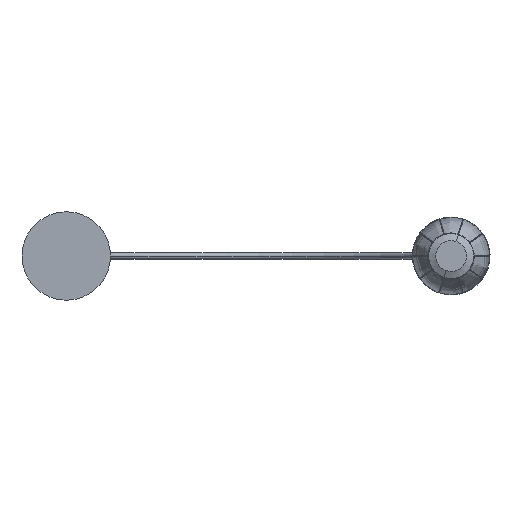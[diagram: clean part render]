
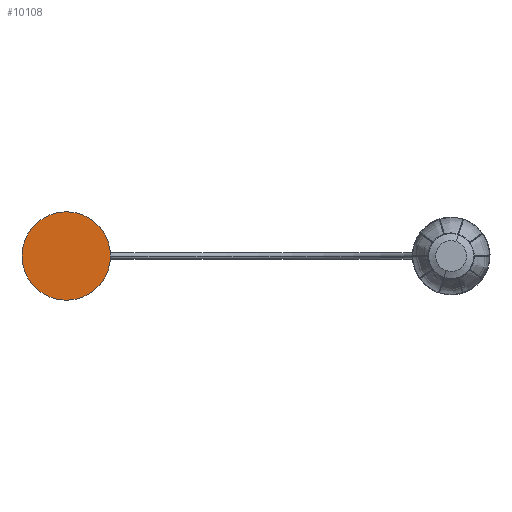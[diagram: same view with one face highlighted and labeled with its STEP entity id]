
A CAD part, front view. The second image highlights one B-rep face of the part: STEP entity #10108.
In plain terms, the highlighted planar face has unit normal (0, -1, 0).
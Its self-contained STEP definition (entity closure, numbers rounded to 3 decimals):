
#482 = CARTESIAN_POINT ( 'NONE',  ( 0.741, 0., -115. ) ) ;
#932 = EDGE_CURVE ( 'NONE', #1916, #3820, #13663, .T. ) ;
#934 = CIRCLE ( 'NONE', #11863, 115. ) ;
#1291 = FACE_OUTER_BOUND ( 'NONE', #2436, .T. ) ;
#1705 = DIRECTION ( 'NONE',  ( 0., 0., 1. ) ) ;
#1916 = VERTEX_POINT ( 'NONE', #3492 ) ;
#2383 = DIRECTION ( 'NONE',  ( 0., 0., 1. ) ) ;
#2436 = EDGE_LOOP ( 'NONE', ( #13592, #8425 ) ) ;
#3492 = CARTESIAN_POINT ( 'NONE',  ( 0.741, 0., 115. ) ) ;
#3820 = VERTEX_POINT ( 'NONE', #482 ) ;
#4948 = PLANE ( 'NONE',  #7449 ) ;
#5127 = CARTESIAN_POINT ( 'NONE',  ( 0.741, 0., 0. ) ) ;
#5627 = CARTESIAN_POINT ( 'NONE',  ( 0.741, 0., 0. ) ) ;
#6184 = DIRECTION ( 'NONE',  ( 0., 1., 0. ) ) ;
#6633 = DIRECTION ( 'NONE',  ( 0., 1., 0. ) ) ;
#7382 = AXIS2_PLACEMENT_3D ( 'NONE', #12048, #7759, #11958 ) ;
#7449 = AXIS2_PLACEMENT_3D ( 'NONE', #5127, #6184, #1705 ) ;
#7759 = DIRECTION ( 'NONE',  ( 0., 1., 0. ) ) ;
#8425 = ORIENTED_EDGE ( 'NONE', *, *, #932, .F. ) ;
#10108 = ADVANCED_FACE ( 'NONE', ( #1291 ), #4948, .F. ) ;
#10836 = EDGE_CURVE ( 'NONE', #3820, #1916, #934, .T. ) ;
#11863 = AXIS2_PLACEMENT_3D ( 'NONE', #5627, #6633, #2383 ) ;
#11958 = DIRECTION ( 'NONE',  ( 0., 0., 1. ) ) ;
#12048 = CARTESIAN_POINT ( 'NONE',  ( 0.741, 0., 0. ) ) ;
#13592 = ORIENTED_EDGE ( 'NONE', *, *, #10836, .F. ) ;
#13663 = CIRCLE ( 'NONE', #7382, 115. ) ;
